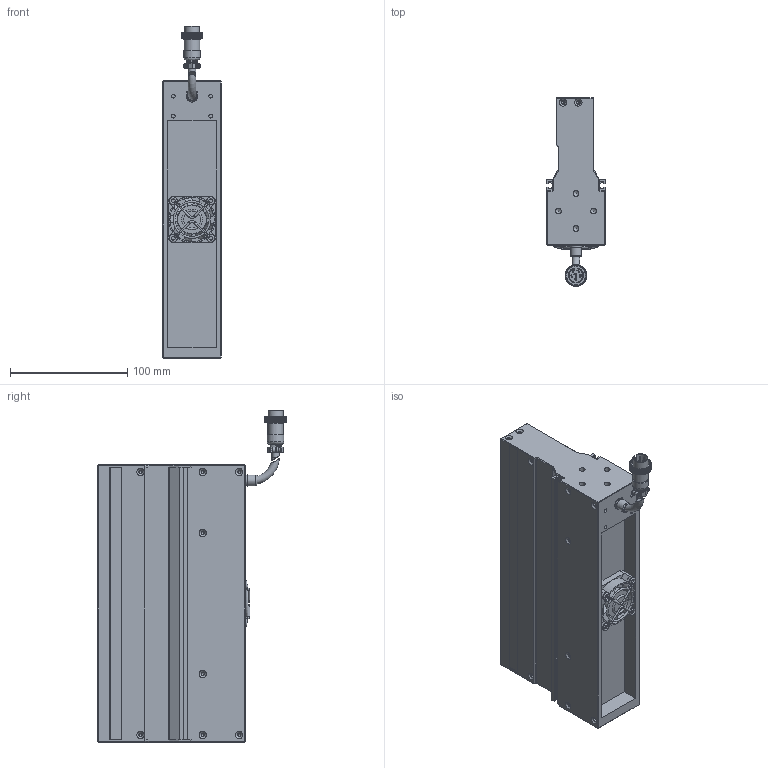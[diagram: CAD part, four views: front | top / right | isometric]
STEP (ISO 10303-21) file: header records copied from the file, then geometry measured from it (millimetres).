
FILE_DESCRIPTION (( 'STEP AP203' ), '1' );
FILE_NAME ('OPT-LSSC236-R-V3.1U尨砩芞.STEP', '2025-02-05T02:03:50', ( 'USER' ), ( '' ), 'SwSTEP 2.0', 'SolidWorks 2016', '' );
FILE_SCHEMA (( 'CONFIG_CONTROL_DESIGN' ));
Products named in the file (2): OPT-LSSC236-R-V3.1U尨砩芞
Bounding box: 50 x 160.65 x 282.83 mm (x, y, z)
Volume: 909443.9 mm3; surface area: 183931.2 mm2
Topology: 10 solids, 18 shells, 3595 faces, 7961 edges, 4453 vertices
Faces by surface type: bspline 2086, cylinder 705, plane 696, cone 63, torus 45
Full cylindrical faces by diameter (mm): 0.95 x6, 1.6 x4, 2 x5, 2.5 x20, 3.2 x8, 3.4 x22, 3.5 x4, 5 x8, 6.2 x4, 6.4 x3, 7.5 x1, 8.6 x1, 9.3 x1, 9.8 x1, 10 x1, 13.2 x1, 14 x1, 16.1 x1, 24.8 x1, 38 x1
Entity records: 121136 total; most frequent: CARTESIAN_POINT 61398, ORIENTED_EDGE 15428, EDGE_CURVE 7714, DIRECTION 5766, B_SPLINE_CURVE_WITH_KNOTS 5449, VERTEX_POINT 4387, EDGE_LOOP 3859, FACE_OUTER_BOUND 3715
